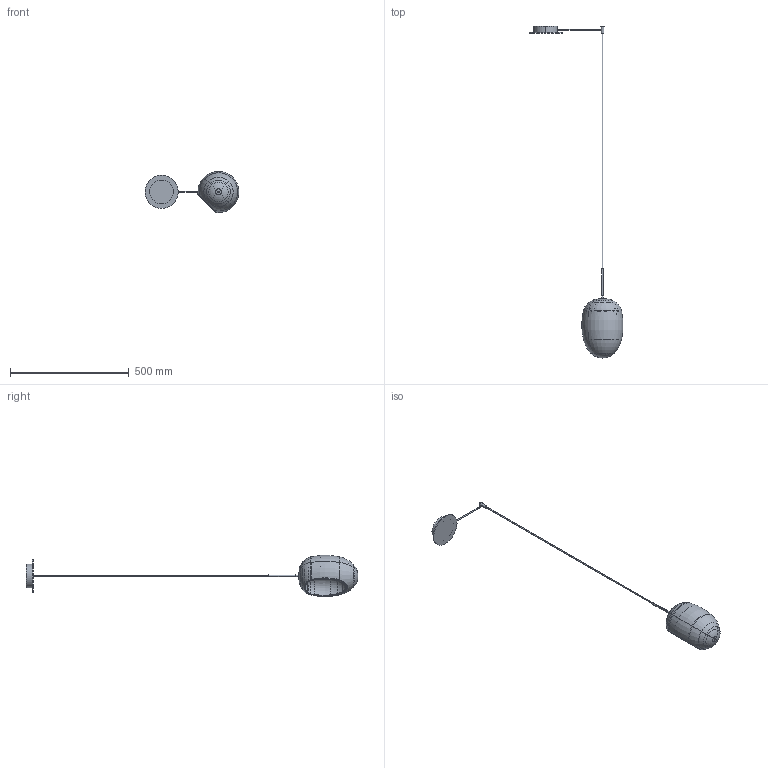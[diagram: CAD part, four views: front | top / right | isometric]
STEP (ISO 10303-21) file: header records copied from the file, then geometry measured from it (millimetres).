
FILE_DESCRIPTION (( 'STEP AP203' ), '1' );
FILE_NAME ('FOS01_1 sospensione.STEP', '2025-05-19T07:14:00', ( '' ), ( '' ), 'SwSTEP 2.0', 'SolidWorks 2022', '' );
FILE_SCHEMA (( 'CONFIG_CONTROL_DESIGN' ));
Length unit declared in the file: millimetre
Products named in the file (6): Cavo x Fos_H=1600; FOSxx-01-FOS_lampada completa con cavo_H=1600; Porta lampada definitivo FOS; FOS01_1 sospensione; FOS parte in vetro; FOSxx-01-FOS_rosone+cavi_FOS_1 sospensione<A macchina>
Assembly tree (5 placements, depth 3):
  FOS01_1 sospensione
    FOSxx-01-FOS_rosone+cavi_FOS_1 sospensione<A macchina>
    FOSxx-01-FOS_lampada completa con cavo_H=1600
      Porta lampada definitivo FOS
      FOS parte in vetro
      Cavo x Fos_H=1600
Bounding box: 396.31 x 1400.54 x 173.48 mm (x, y, z)
Volume: 662930.6 mm3; surface area: 368770.8 mm2
Topology: 11 solids, 11 shells, 236 faces, 558 edges, 346 vertices
Faces by surface type: torus 81, plane 63, cylinder 49, bspline 22, cone 21
Entity records: 13804 total; most frequent: CARTESIAN_POINT 7783, DIRECTION 1173, ORIENTED_EDGE 1116, EDGE_CURVE 558, AXIS2_PLACEMENT_3D 497, VERTEX_POINT 346, CIRCLE 274, EDGE_LOOP 244
